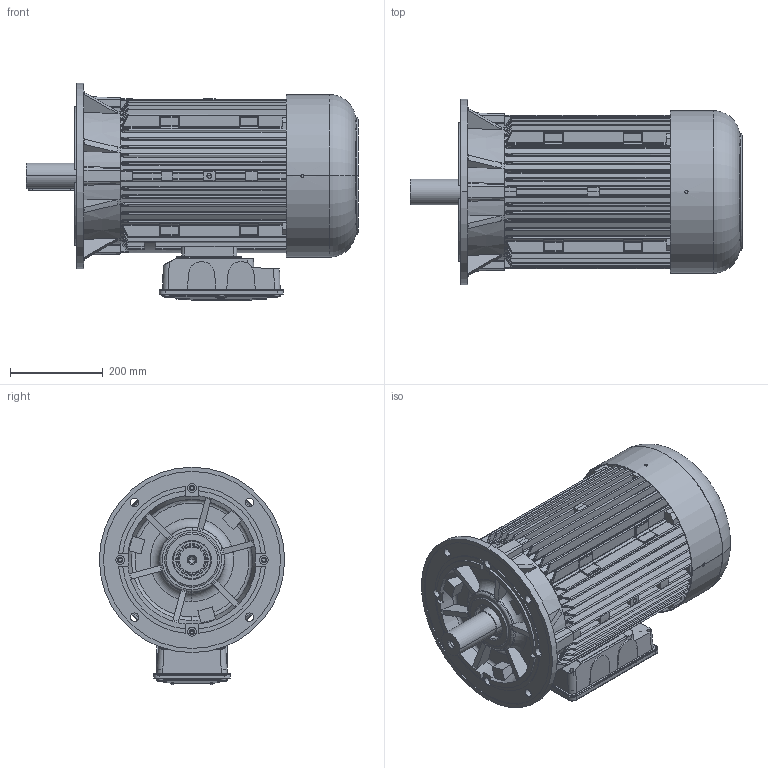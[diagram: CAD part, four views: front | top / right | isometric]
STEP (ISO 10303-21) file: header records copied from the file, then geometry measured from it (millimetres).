
FILE_DESCRIPTION (( 'STEP AP214' ), '1' );
FILE_NAME ('M24NB0010.STEP', '2019-10-14T10:21:16', ( '' ), ( '' ), 'SwSTEP 2.0', 'SolidWorks 2018', '' );
FILE_SCHEMA (( 'AUTOMOTIVE_DESIGN' ));
Length unit declared in the file: millimetre
Products named in the file (13): Cuffia SM 180-200; Chiavetta 200-225 2p; Carcassa 180-200 B5; M24NB0010; Scudo Lato Comando B3 BA 180; Scatola Morsettiera Doppia BA 160 - 180 - 200 - Completa; Guarnizione Basetta BA 160-180 - 200 - D6BB0000; Vite Testa Bombata M6x20; Guarnizione Coperchio Sc. Mor. BA 160-180-200 - D6BA0100; Coperchio Scatola Morsettiera Doppia BA 160 - 180 - 200 - D6A60099; Scatola Morsettiera Doppia BA 160 - 180 - 200 - D6A70299; Scudo a Flangia B5 BA 200 Fi 400 - D7AV0299; Albero SM 200 L
Assembly tree (17 placements, depth 3):
  M24NB0010
    Carcassa 180-200 B5
    Chiavetta 200-225 2p
    Cuffia SM 180-200
    Albero SM 200 L
    Scudo a Flangia B5 BA 200 Fi 400 - D7AV0299
    Scatola Morsettiera Doppia BA 160 - 180 - 200 - Completa
      Scatola Morsettiera Doppia BA 160 - 180 - 200 - D6A70299
      Coperchio Scatola Morsettiera Doppia BA 160 - 180 - 200 - D6A60099
      Guarnizione Coperchio Sc. Mor. BA 160-180-200 - D6BA0100
      Vite Testa Bombata M6x20  x6
      Guarnizione Basetta BA 160-180 - 200 - D6BB0000
    Scudo Lato Comando B3 BA 180
Bounding box: 716.49 x 400 x 469.49 mm (x, y, z)
Volume: 13850510.8 mm3; surface area: 3093400.3 mm2
Topology: 16 solids, 16 shells, 4409 faces, 11986 edges, 7479 vertices
Faces by surface type: plane 1981, cylinder 1270, bspline 506, torus 377, sphere 150, cone 125
Entity records: 156389 total; most frequent: CARTESIAN_POINT 55304, ORIENTED_EDGE 21588, DIRECTION 19506, EDGE_CURVE 10794, VERTEX_POINT 6809, AXIS2_PLACEMENT_3D 6606, LINE 6294, VECTOR 6294
